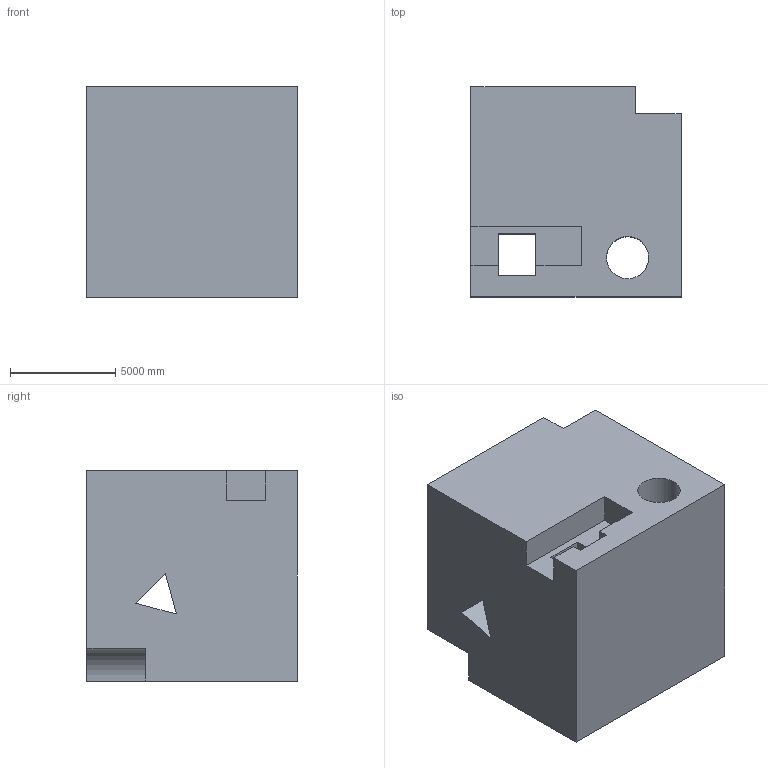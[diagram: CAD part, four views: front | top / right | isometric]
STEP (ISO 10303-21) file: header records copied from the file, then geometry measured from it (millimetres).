
FILE_DESCRIPTION (( 'STEP AP203' ), '1' );
FILE_NAME ('154.STEP', '2022-08-31T11:58:59', ( 'user' ), ( '' ), 'SwSTEP 2.0', 'SolidWorks 2021', '' );
FILE_SCHEMA (( 'CONFIG_CONTROL_DESIGN' ));
Length unit declared in the file: centimetre
Products named in the file (1): 154
Bounding box: 10000 x 10000 x 10000 mm (x, y, z)
Volume: 851461276758.1 mm3; surface area: 809855005.3 mm2
Topology: 1 solids, 1 shells, 32 faces, 90 edges, 60 vertices
Faces by surface type: plane 29, cylinder 3
Entity records: 1109 total; most frequent: CARTESIAN_POINT 183, ORIENTED_EDGE 180, DIRECTION 162, EDGE_CURVE 90, LINE 84, VECTOR 84, VERTEX_POINT 60, AXIS2_PLACEMENT_3D 39
